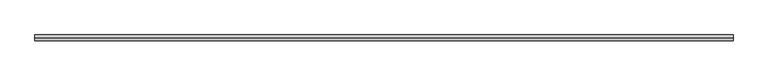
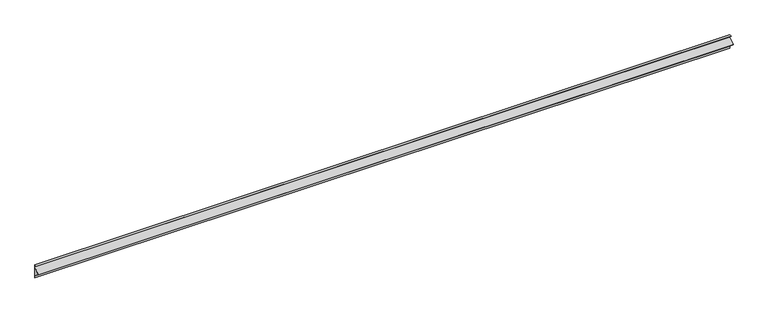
"""IFC4 building model written with IfcOpenShell, lengths in millimetres: plate geometry, ATELIERS 3S_GLACE BOSSONS 900_HORIZONTAL : AZURO."""

from ifc_helpers import new_model, si_unit, frame, origin, place, context, project, spatial, polyline, outline, extrude, source, transform, mapped, element, save


def plate_66d4686d(model_context):
    return source(origin(), model_context, "Body", "SweptSolid", [
        extrude(outline(polyline([(-0.8, 0.0), (-0.8, 13.6571921), (-41.1389442, 48.9537682), (-1.1299144, 83.9616693), (-18.9502818, 100.0), (0.0, 100.0), (0.0, 0.0), (-0.8, 0.0)])), frame((-2500.0, 0.0, 0.0), z_axis=(1.0, 0.0, 0.0), x_axis=(0.0, 1.0, 0.0)), (0.0, 0.0, 1.0), 5000.0),
    ])


if __name__ == "__main__":
    model = new_model("IFC4")
    model_context = context("Model", 3, world=origin())
    ifc_project = project(units=[si_unit("LENGTHUNIT", "METRE", prefix="MILLI")], contexts=[model_context])
    site = spatial("IfcSite", under=ifc_project)
    building = spatial("IfcBuilding", under=site)
    placement = place(None, origin())
    plate_shape = plate_66d4686d(model_context)
    element("IfcPlate", 1, ObjectType="ATELIERS 3S_GLACE BOSSONS 900_HORIZONTAL : AZURO", at=placement, inside=building, context=model_context, shape_type="MappedRepresentation", body=[
        mapped(plate_shape, transform((0.0, 0.0, 0.0), x_axis=(1.0, 0.0, 0.0), y_axis=(0.0, 1.0, 0.0), z_axis=(0.0, 0.0, 1.0))),
    ])
    save(model, "model.ifc")
